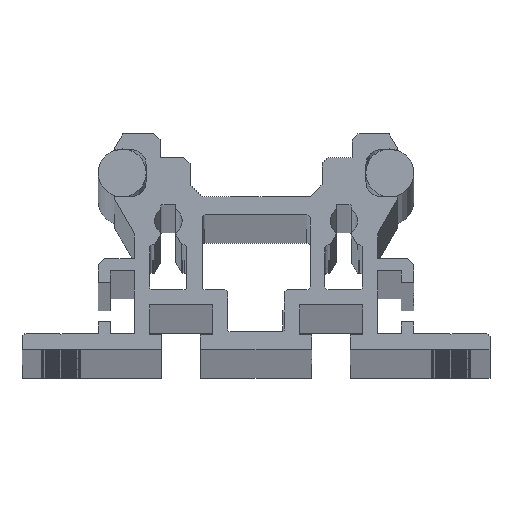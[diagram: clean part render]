
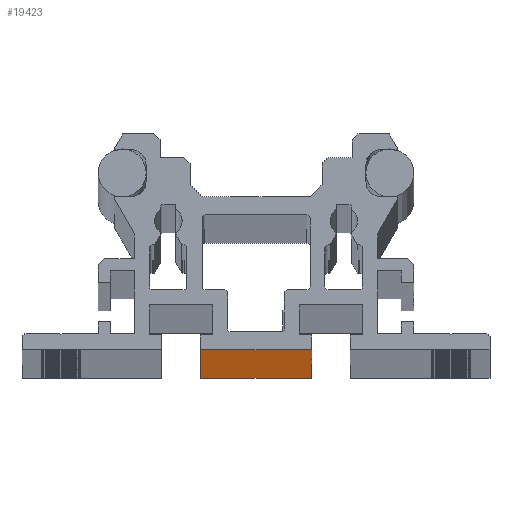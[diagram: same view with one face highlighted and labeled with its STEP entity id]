
A CAD part, top view. The second image highlights one B-rep face of the part: STEP entity #19423.
In plain terms, the highlighted planar face has unit normal (0, -1, 0).
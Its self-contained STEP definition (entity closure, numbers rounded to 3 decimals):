
#15243 = DIRECTION ( 'NONE',  ( 1., 0., 0. ) ) ;
#15244 = VECTOR ( 'NONE', #15243, 1000. ) ;
#15245 = CARTESIAN_POINT ( 'NONE',  ( -9.25, 0., -1348. ) ) ;
#15246 = LINE ( 'NONE', #15245, #15244 ) ;
#15247 = CARTESIAN_POINT ( 'NONE',  ( -9.25, 0., -1348. ) ) ;
#15248 = DIRECTION ( 'NONE',  ( 0., 0., 1. ) ) ;
#15249 = VECTOR ( 'NONE', #15248, 1000. ) ;
#15250 = CARTESIAN_POINT ( 'NONE',  ( -9.25, 0., -1348. ) ) ;
#15251 = LINE ( 'NONE', #15250, #15249 ) ;
#15252 = CARTESIAN_POINT ( 'NONE',  ( -9.25, 0., 1348. ) ) ;
#15253 = DIRECTION ( 'NONE',  ( 1., 0., 0. ) ) ;
#15254 = VECTOR ( 'NONE', #15253, 1000. ) ;
#15255 = CARTESIAN_POINT ( 'NONE',  ( -9.25, 0., 1348. ) ) ;
#15256 = LINE ( 'NONE', #15255, #15254 ) ;
#15279 = CARTESIAN_POINT ( 'NONE',  ( 9.25, 0., -1348. ) ) ;
#15280 = DIRECTION ( 'NONE',  ( 0., 0., 1. ) ) ;
#15281 = VECTOR ( 'NONE', #15280, 1000. ) ;
#15282 = CARTESIAN_POINT ( 'NONE',  ( 9.25, 0., -1348. ) ) ;
#15283 = LINE ( 'NONE', #15282, #15281 ) ;
#15284 = CARTESIAN_POINT ( 'NONE',  ( 9.25, 0., 1348. ) ) ;
#15363 = DIRECTION ( 'NONE',  ( 0., 0., -1. ) ) ;
#15364 = DIRECTION ( 'NONE',  ( 0., -1., 0. ) ) ;
#15365 = CARTESIAN_POINT ( 'NONE',  ( -9.25, 0., -1348. ) ) ;
#15366 = AXIS2_PLACEMENT_3D ( 'NONE', #15365, #15364, #15363 ) ;
#15367 = PLANE ( 'NONE',  #15366 ) ;
#15368 = FACE_OUTER_BOUND ( 'NONE', #19424, .T. ) ;
#19344 = EDGE_CURVE ( 'NONE', #19345, #19362, #15256, .T. ) ;
#19345 = VERTEX_POINT ( 'NONE', #15252 ) ;
#19346 = ORIENTED_EDGE ( 'NONE', *, *, #19347, .F. ) ;
#19347 = EDGE_CURVE ( 'NONE', #19348, #19345, #15251, .T. ) ;
#19348 = VERTEX_POINT ( 'NONE', #15247 ) ;
#19349 = ORIENTED_EDGE ( 'NONE', *, *, #19350, .T. ) ;
#19350 = EDGE_CURVE ( 'NONE', #19348, #19365, #15246, .T. ) ;
#19351 = ORIENTED_EDGE ( 'NONE', *, *, #19364, .T. ) ;
#19362 = VERTEX_POINT ( 'NONE', #15284 ) ;
#19364 = EDGE_CURVE ( 'NONE', #19365, #19362, #15283, .T. ) ;
#19365 = VERTEX_POINT ( 'NONE', #15279 ) ;
#19423 = ADVANCED_FACE ( 'NONE', ( #15368 ), #15367, .T. ) ;
#19424 = EDGE_LOOP ( 'NONE', ( #19425, #19346, #19349, #19351 ) ) ;
#19425 = ORIENTED_EDGE ( 'NONE', *, *, #19344, .F. ) ;
